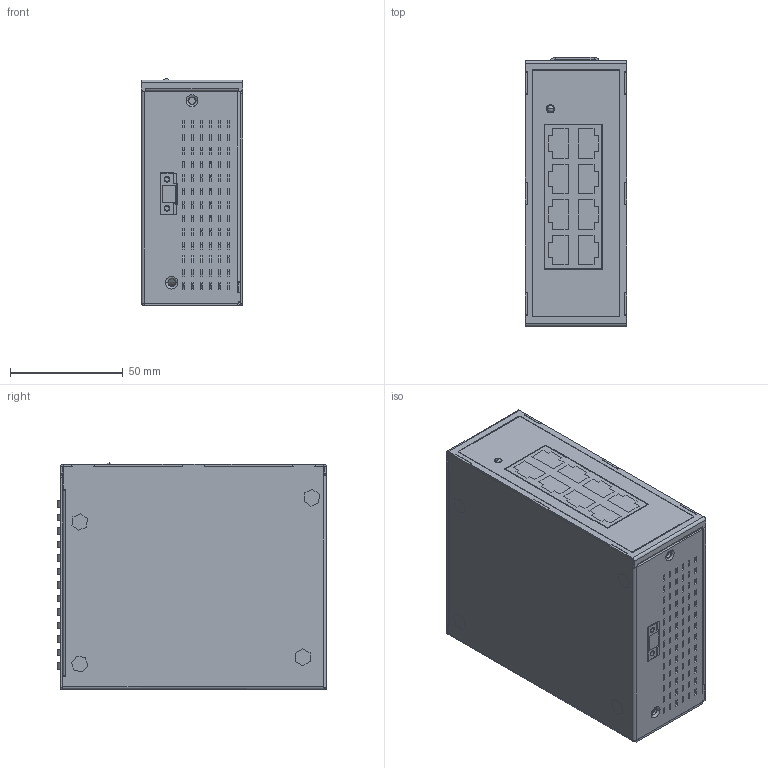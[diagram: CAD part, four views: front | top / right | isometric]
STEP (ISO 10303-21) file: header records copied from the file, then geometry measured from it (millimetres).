
FILE_DESCRIPTION((''),'2;1');
FILE_NAME('DVS-008I00-R_ASM','2014-12-08T',('ANDREW.AS.SUN'),(''),'PRO/ENGINEER BY PARAMETRIC TECHNOLOGY CORPORATION, 2010280','PRO/ENGINEER BY PARAMETRIC TECHNOLOGY CORPORATION, 2010280','');
FILE_SCHEMA(('CONFIG_CONTROL_DESIGN'));
Products named in the file (60): PCB-M-8P; 307234467C; TB293; 2304081536_LED; PCBA_DVS-008I00-R_ASM; 3991141200_BASE-----; STUD_M3_0; STUD_M3_0-S; 3991141200_BASE_ASM; 3991141100_COVER; 3991161200_PANEL; 3246193400_INSULATOR; 3205290300_NAMEPLATE; DVS-008I00-R_20130807_EMN; IC_SSOP4A-1D27; MS1_3D2_8; MS1_4D2_8; CS1812; CS2220; CD2C160X250-7D5; CNDPM2-3D81RWB; SGS1210; DSSMBA; FS2410; LS2R103X105X040-9; LS2R073X069X028-6D05; LED1X1B043X090-2G; GDTS2R044X050X050-3D9; RS1206; DSPOWERDI5-3; QSSOT-23A-3; LD4R130X170X170-5; IC_MSOP10A-D5_TPS54260DGQR; IC_QFN16-D5_TPS54319; XS4R025X032X006A-2D1; RS0603; IC_TQFP176EA-D4_88E6095; CNDRJXL2X4A-102E; RS0805; IC_SOIC8A-1D27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
Assembly tree (462 placements, depth 3):
  DVS-008I00-R_ASM
    PCBA_DVS-008I00-R_ASM
      PCB-M-8P
      307234467C
      TB293
      2304081536_LED
    3991141200_BASE_ASM
      3991141200_BASE-----
      STUD_M3_0  x2
      STUD_M3_0-S  x2
    3991141100_COVER
    3991161200_PANEL
    3246193400_INSULATOR
    3205290300_NAMEPLATE
    DVS-008I00-R_20130807_EMN_ASM
      DVS-008I00-R_20130807_EMN
      IC_SSOP4A-1D27
      MS1_3D2_8  x2
      MS1_4D2_8  x2
      CS1812  x4
      CS2220
      CD2C160X250-7D5
      CNDPM2-3D81RWB
      SGS1210  x10
      DSSMBA  x2
      FS2410
      LS2R103X105X040-9
      LS2R073X069X028-6D05
      LED1X1B043X090-2G
      GDTS2R044X050X050-3D9
      RS1206  x3
      DSPOWERDI5-3
      QSSOT-23A-3  x2
      LD4R130X170X170-5
      IC_MSOP10A-D5_TPS54260DGQR
      IC_QFN16-D5_TPS54319
      XS4R025X032X006A-2D1
      RS0603  x16
      IC_TQFP176EA-D4_88E6095
      CNDRJXL2X4A-102E
      RS0805
      IC_SOIC8A-1D27
      MF40C120  x6
      TD_L4
      CNSH1X3AA-2D54V
      MLQC_5
      PCB_COUPON
      MTD1SQ1D4_BC1D4  x2
      TP20  x12
      CS0603  x9
      CS1206  x38
      LS0805  x10
      RS0402  x135
      CS0402  x156
      QSSOT-223A-3
      DSSOT-23A-6  x8
      LFDG2PM109NM-48  x2
    3344571800_HSK-21X21X30
    _DVS-G008I00B_20130923A_TOP
    _DVS-G008I00B_20130923A_BOT
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Bounding box: 45 x 119.7 x 100.6 mm (x, y, z)
Volume: 194701.2 mm3; surface area: 214662.9 mm2
Topology: 457 solids, 463 shells, 6002 faces, 14806 edges, 9730 vertices
Faces by surface type: plane 4224, cylinder 1710, cone 32, torus 26, bspline 8, sphere 2
Entity records: 69797 total; most frequent: DIRECTION 12816, CARTESIAN_POINT 11992, ORIENTED_EDGE 10544, EDGE_CURVE 5280, AXIS2_PLACEMENT_3D 4562, VECTOR 3692, LINE 3692, VERTEX_POINT 3384
